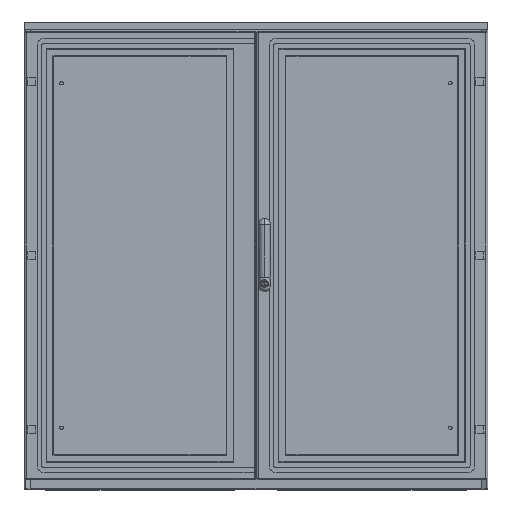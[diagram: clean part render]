
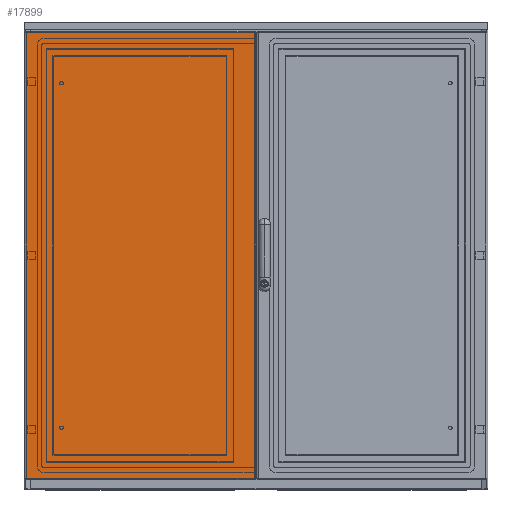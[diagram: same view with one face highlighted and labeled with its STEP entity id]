
A CAD part, front view. The second image highlights one B-rep face of the part: STEP entity #17899.
In plain terms, the highlighted planar face has unit normal (0, -1, 0) as drawn and (0, 0, 1) by its records, which use the part's own axes.
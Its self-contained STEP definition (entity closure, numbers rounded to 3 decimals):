
#3209 = VECTOR ( 'NONE', #23730, 1000. ) ;
#3498 = EDGE_CURVE ( 'NONE', #9669, #19343, #11432, .T. ) ;
#5490 = CARTESIAN_POINT ( 'NONE',  ( 2.001, 3., 19. ) ) ;
#5771 = CARTESIAN_POINT ( 'NONE',  ( 2.001, 3., 19. ) ) ;
#9669 = VERTEX_POINT ( 'NONE', #39702 ) ;
#11105 = FACE_OUTER_BOUND ( 'NONE', #34706, .T. ) ;
#11432 = LINE ( 'NONE', #11736, #28820 ) ;
#11736 = CARTESIAN_POINT ( 'NONE',  ( 0., 1157., 19. ) ) ;
#14115 = EDGE_CURVE ( 'NONE', #43185, #39236, #31347, .T. ) ;
#15061 = VECTOR ( 'NONE', #31781, 1000. ) ;
#15427 = ORIENTED_EDGE ( 'NONE', *, *, #14115, .T. ) ;
#17899 = ADVANCED_FACE ( 'NONE', ( #11105 ), #51427, .F. ) ;
#18872 = CARTESIAN_POINT ( 'NONE',  ( 592., 1160., 19. ) ) ;
#19343 = VERTEX_POINT ( 'NONE', #28288 ) ;
#23730 = DIRECTION ( 'NONE',  ( 1., 0., 0. ) ) ;
#23961 = DIRECTION ( 'NONE',  ( 0., 0., -1. ) ) ;
#24564 = EDGE_CURVE ( 'NONE', #19343, #43185, #49323, .T. ) ;
#27868 = CARTESIAN_POINT ( 'NONE',  ( 592., 3., 19. ) ) ;
#27928 = LINE ( 'NONE', #18872, #31641 ) ;
#28288 = CARTESIAN_POINT ( 'NONE',  ( 2.001, 1157., 19. ) ) ;
#28820 = VECTOR ( 'NONE', #39141, 1000. ) ;
#31347 = LINE ( 'NONE', #36556, #3209 ) ;
#31641 = VECTOR ( 'NONE', #42471, 1000. ) ;
#31781 = DIRECTION ( 'NONE',  ( 0., -1., 0. ) ) ;
#33598 = DIRECTION ( 'NONE',  ( -1., 0., 0. ) ) ;
#34706 = EDGE_LOOP ( 'NONE', ( #56423, #46493, #15427, #52032 ) ) ;
#36556 = CARTESIAN_POINT ( 'NONE',  ( 0., 3., 19. ) ) ;
#37972 = AXIS2_PLACEMENT_3D ( 'NONE', #55546, #23961, #33598 ) ;
#39141 = DIRECTION ( 'NONE',  ( -1., 0., 0. ) ) ;
#39236 = VERTEX_POINT ( 'NONE', #27868 ) ;
#39702 = CARTESIAN_POINT ( 'NONE',  ( 592., 1157., 19. ) ) ;
#42471 = DIRECTION ( 'NONE',  ( 0., 1., 0. ) ) ;
#43185 = VERTEX_POINT ( 'NONE', #5490 ) ;
#46493 = ORIENTED_EDGE ( 'NONE', *, *, #24564, .T. ) ;
#49323 = LINE ( 'NONE', #5771, #15061 ) ;
#51427 = PLANE ( 'NONE',  #37972 ) ;
#52032 = ORIENTED_EDGE ( 'NONE', *, *, #53332, .T. ) ;
#53332 = EDGE_CURVE ( 'NONE', #39236, #9669, #27928, .T. ) ;
#55546 = CARTESIAN_POINT ( 'NONE',  ( 0., 1160., 19. ) ) ;
#56423 = ORIENTED_EDGE ( 'NONE', *, *, #3498, .T. ) ;
